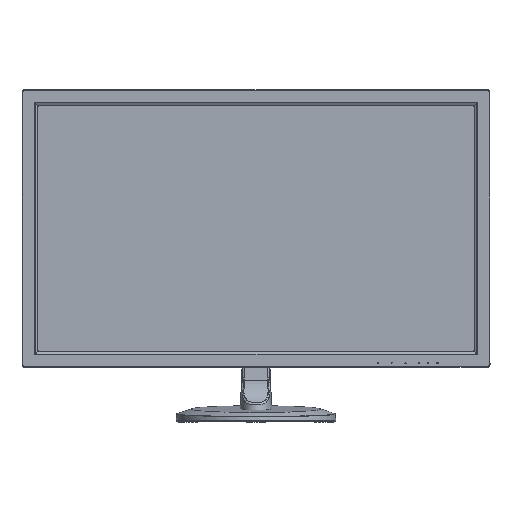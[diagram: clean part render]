
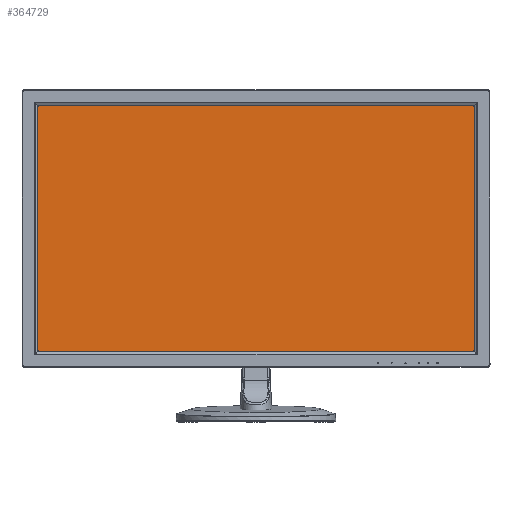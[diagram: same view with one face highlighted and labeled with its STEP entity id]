
A CAD part, top view. The second image highlights one B-rep face of the part: STEP entity #364729.
In plain terms, the highlighted planar face has unit normal (0, 0, 1) as drawn and (0, 1, 0) by its records, which use the part's own axes.
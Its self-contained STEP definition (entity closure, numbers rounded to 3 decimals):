
#523 = ORIENTED_EDGE ( 'NONE', *, *, #327306, .T. ) ;
#6903 = CARTESIAN_POINT ( 'NONE',  ( 240.92, -1.14, -137.1 ) ) ;
#16702 = AXIS2_PLACEMENT_3D ( 'NONE', #379477, #415322, #202148 ) ;
#39150 = CARTESIAN_POINT ( 'NONE',  ( -240.92, -1.14, -137.1 ) ) ;
#49329 = VERTEX_POINT ( 'NONE', #62632 ) ;
#62632 = CARTESIAN_POINT ( 'NONE',  ( -240.92, -1.14, 139. ) ) ;
#87769 = VERTEX_POINT ( 'NONE', #6903 ) ;
#103628 = DIRECTION ( 'NONE',  ( 0., 0., -1. ) ) ;
#110378 = LINE ( 'NONE', #352491, #383187 ) ;
#114487 = ORIENTED_EDGE ( 'NONE', *, *, #289881, .T. ) ;
#116770 = DIRECTION ( 'NONE',  ( 0., 0., 1. ) ) ;
#128342 = EDGE_CURVE ( 'NONE', #49329, #164822, #377566, .T. ) ;
#148958 = ORIENTED_EDGE ( 'NONE', *, *, #453253, .T. ) ;
#162756 = ORIENTED_EDGE ( 'NONE', *, *, #128342, .T. ) ;
#164822 = VERTEX_POINT ( 'NONE', #265233 ) ;
#201990 = DIRECTION ( 'NONE',  ( 1., 0., 0. ) ) ;
#202148 = DIRECTION ( 'NONE',  ( 0., 0., 1. ) ) ;
#220090 = LINE ( 'NONE', #329826, #420626 ) ;
#230076 = CARTESIAN_POINT ( 'NONE',  ( 0., -1.14, 139. ) ) ;
#243517 = EDGE_LOOP ( 'NONE', ( #162756, #114487, #523, #148958 ) ) ;
#265233 = CARTESIAN_POINT ( 'NONE',  ( 240.92, -1.14, 139. ) ) ;
#278221 = DIRECTION ( 'NONE',  ( -1., 0., 0. ) ) ;
#282700 = VECTOR ( 'NONE', #201990, 1000. ) ;
#289881 = EDGE_CURVE ( 'NONE', #164822, #87769, #110378, .T. ) ;
#293954 = VERTEX_POINT ( 'NONE', #39150 ) ;
#304620 = VECTOR ( 'NONE', #278221, 1000. ) ;
#327306 = EDGE_CURVE ( 'NONE', #87769, #293954, #399463, .T. ) ;
#329826 = CARTESIAN_POINT ( 'NONE',  ( -240.92, -1.14, 0. ) ) ;
#348356 = CARTESIAN_POINT ( 'NONE',  ( 0., -1.14, -137.1 ) ) ;
#352491 = CARTESIAN_POINT ( 'NONE',  ( 240.92, -1.14, 0. ) ) ;
#364729 = ADVANCED_FACE ( 'NONE', ( #378684 ), #377946, .T. ) ;
#377566 = LINE ( 'NONE', #230076, #282700 ) ;
#377946 = PLANE ( 'NONE',  #16702 ) ;
#378684 = FACE_OUTER_BOUND ( 'NONE', #243517, .T. ) ;
#379477 = CARTESIAN_POINT ( 'NONE',  ( 0., -1.14, 0. ) ) ;
#383187 = VECTOR ( 'NONE', #103628, 1000. ) ;
#399463 = LINE ( 'NONE', #348356, #304620 ) ;
#415322 = DIRECTION ( 'NONE',  ( 0., 1., 0. ) ) ;
#420626 = VECTOR ( 'NONE', #116770, 1000. ) ;
#453253 = EDGE_CURVE ( 'NONE', #293954, #49329, #220090, .T. ) ;
